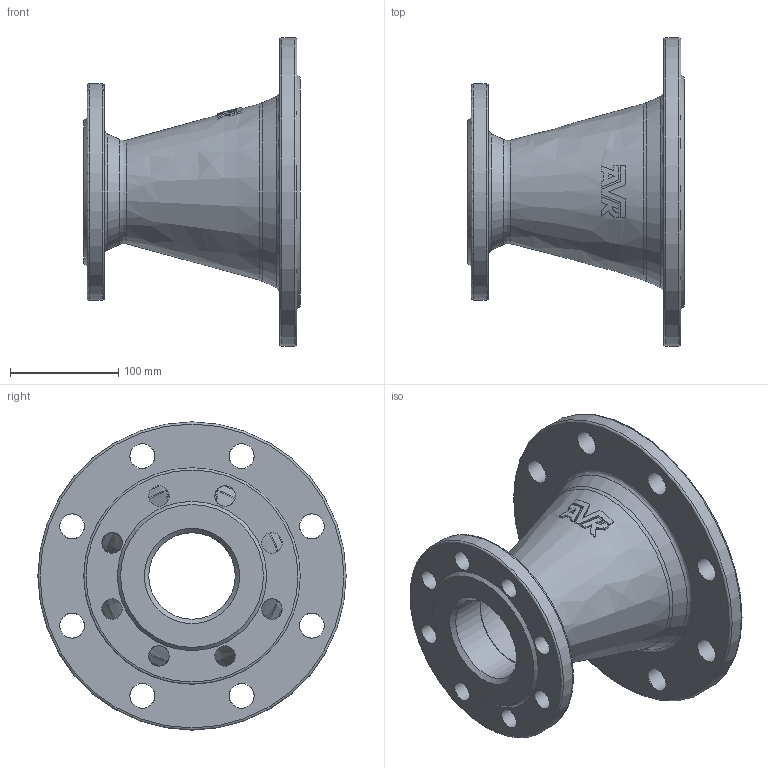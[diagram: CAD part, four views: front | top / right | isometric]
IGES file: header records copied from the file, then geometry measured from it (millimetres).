
Start section: SolidWorks IGES file using analytic representation for surfaces
Global section: file name: \\avksan2\techshare\PBM outline export from Enovia\O_712_2210_DN150_DN80_1X_REV01.igs; native system: SolidWorks 2022; preprocessor: SolidWorks 2022; author: pbm; date: 240807.133654; units: millimetre
Bounding box: 200 x 285 x 285 mm (x, y, z)
Surface area: 303668.2 mm2 (no closed solid volume)
Topology: 0 solids, 0 shells, 85 faces, 416 edges, 370 vertices
Faces by surface type: revolution 44, bspline 41
